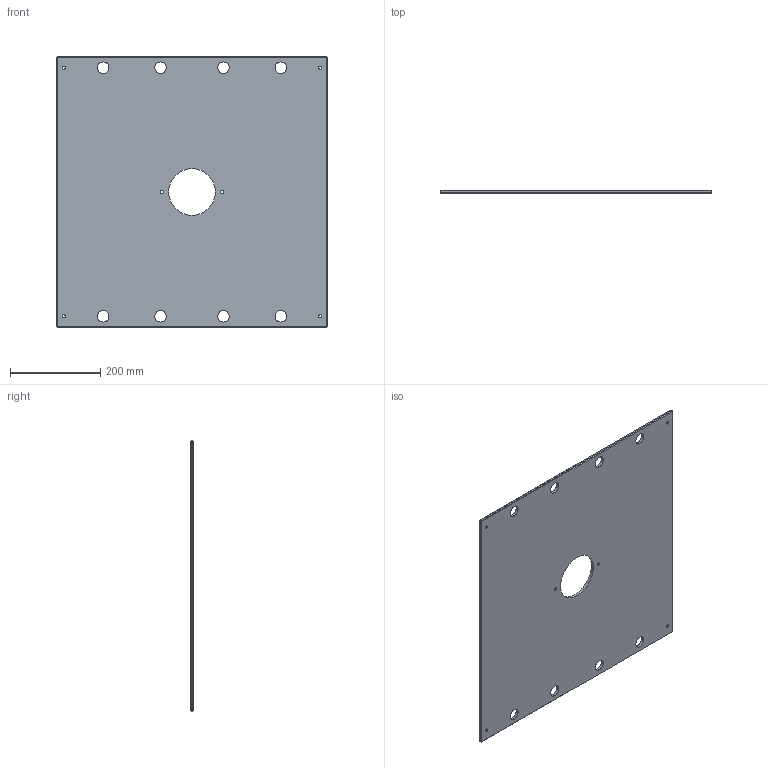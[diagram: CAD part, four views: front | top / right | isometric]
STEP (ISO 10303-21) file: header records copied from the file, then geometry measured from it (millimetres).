
FILE_DESCRIPTION (( 'STEP AP214' ), '1' );
FILE_NAME ('ME-0619-CH-2424.STEP', '2020-02-12T06:35:18', ( '' ), ( '' ), 'SwSTEP 2.0', 'SolidWorks 2018', '' );
FILE_SCHEMA (( 'AUTOMOTIVE_DESIGN' ));
Length unit declared in the file: inch
Products named in the file (1): ME-0619-CH-2424
Bounding box: 600.08 x 6.35 x 600.08 mm (x, y, z)
Volume: 2201127.1 mm3; surface area: 713344 mm2
Topology: 1 solids, 1 shells, 68 faces, 162 edges, 96 vertices
Faces by surface type: cylinder 30, plane 26, cone 12
Entity records: 2050 total; most frequent: DIRECTION 372, CARTESIAN_POINT 327, ORIENTED_EDGE 324, EDGE_CURVE 162, AXIS2_PLACEMENT_3D 141, EDGE_LOOP 98, VERTEX_POINT 96, LINE 90
